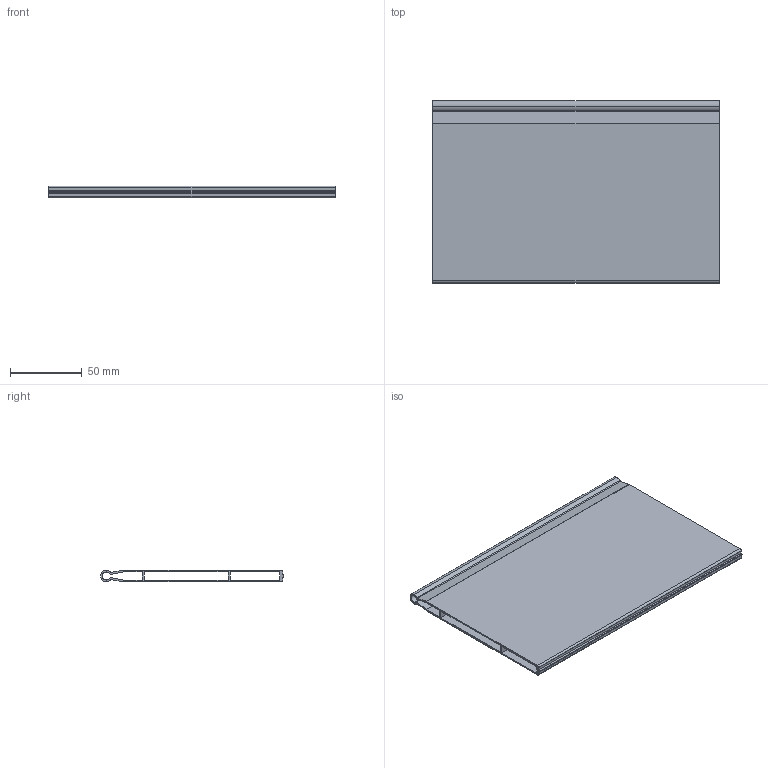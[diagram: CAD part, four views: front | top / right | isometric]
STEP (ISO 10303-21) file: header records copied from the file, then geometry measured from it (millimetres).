
FILE_DESCRIPTION (( 'STEP AP214' ), '1' );
FILE_NAME ('_Magic Optima Unterteilungsprofil DWD XP Agantis_Nova Pro KAB 350.step', '2010-08-17T12:26:43', ( 'grass' ), ( '' ), 'SwSTEP 2.0', 'SolidWorks 2010', '' );
FILE_SCHEMA (( 'AUTOMOTIVE_DESIGN' ));
Length unit declared in the file: millimetre
Products named in the file (1): _Magic Optima Unterteilungsprofil DWD XP Agantis_Nova Pro  KAB 350
Bounding box: 200 x 127.7 x 8.1 mm (x, y, z)
Volume: 70104.7 mm3; surface area: 109140.8 mm2
Topology: 1 solids, 1 shells, 39 faces, 111 edges, 74 vertices
Faces by surface type: plane 22, cylinder 17
Entity records: 1325 total; most frequent: CARTESIAN_POINT 225, DIRECTION 225, ORIENTED_EDGE 222, EDGE_CURVE 111, LINE 77, VECTOR 77, VERTEX_POINT 74, AXIS2_PLACEMENT_3D 74
